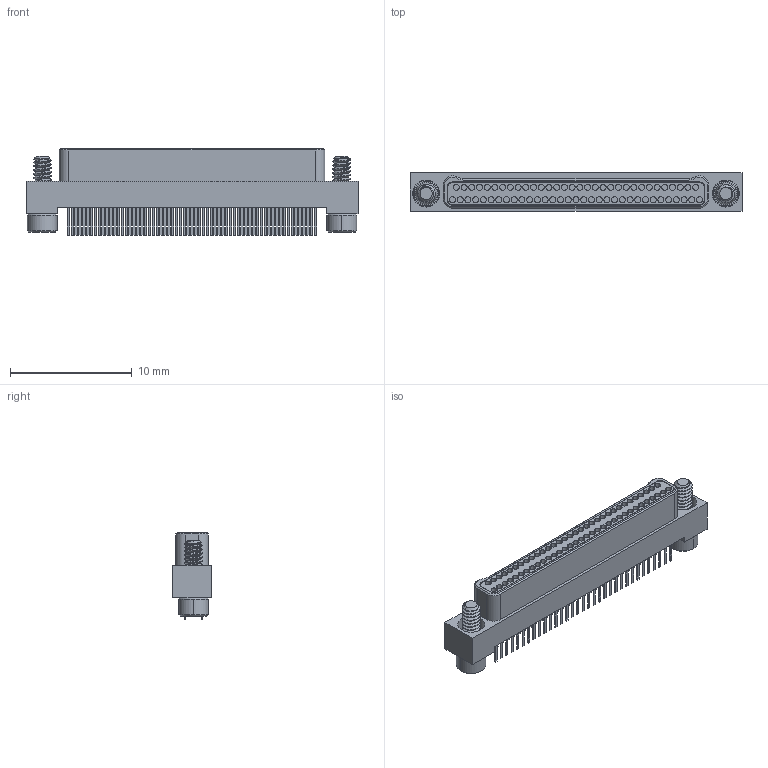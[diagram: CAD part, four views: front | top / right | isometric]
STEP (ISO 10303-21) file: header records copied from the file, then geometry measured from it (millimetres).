
FILE_DESCRIPTION (( 'STEP AP214' ), '1' );
FILE_NAME ('A28500-065 REV H.STEP', '2021-02-26T15:31:16', ( '' ), ( '' ), 'SwSTEP 2.0', 'SolidWorks 2019', '' );
FILE_SCHEMA (( 'AUTOMOTIVE_DESIGN' ));
Length unit declared in the file: inch
Products named in the file (1): A28500-065 REV H
Bounding box: 27.3 x 3.19 x 7.11 mm (x, y, z)
Volume: 286.8 mm3; surface area: 1401 mm2
Topology: 1 solids, 1 shells, 1069 faces, 2471 edges, 1632 vertices
Faces by surface type: plane 629, cylinder 332, bspline 54, cone 38, torus 16
Entity records: 49526 total; most frequent: CARTESIAN_POINT 11107, DIRECTION 5001, ORIENTED_EDGE 4942, EDGE_CURVE 2471, AXIS2_PLACEMENT_3D 1704, VERTEX_POINT 1632, VECTOR 1593, LINE 1593
